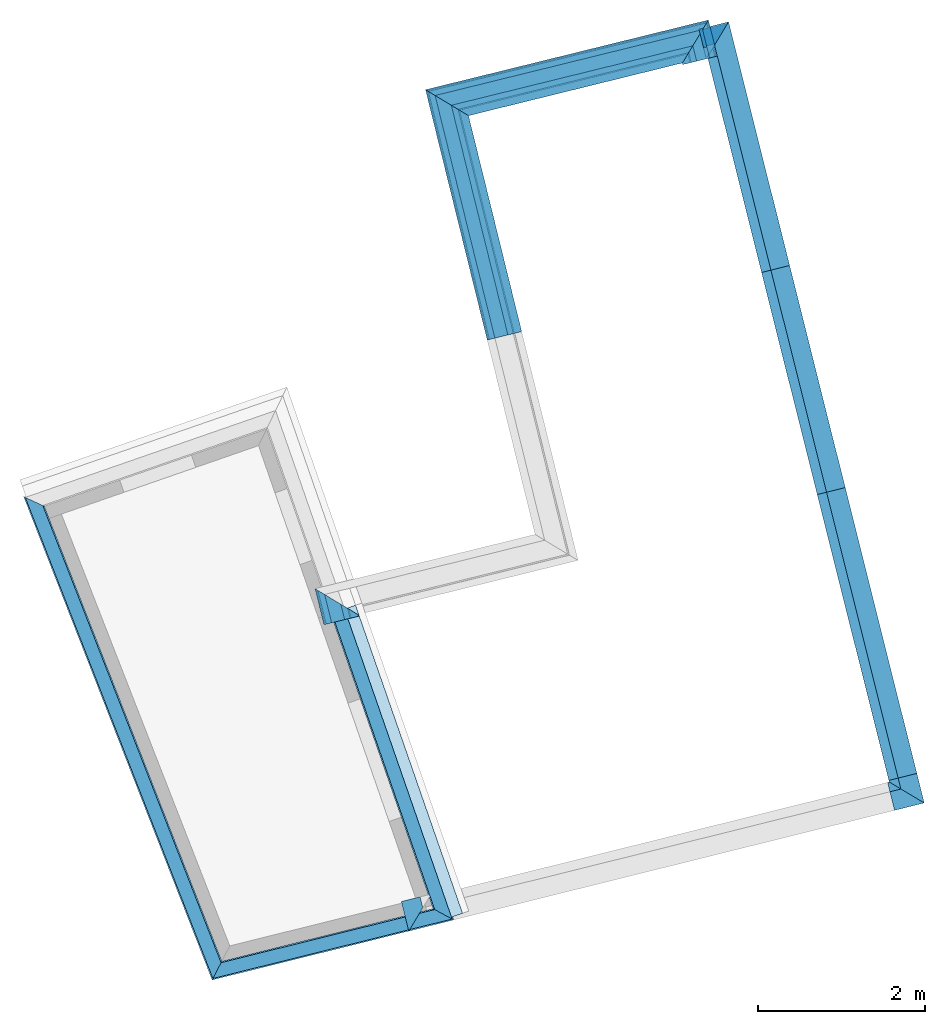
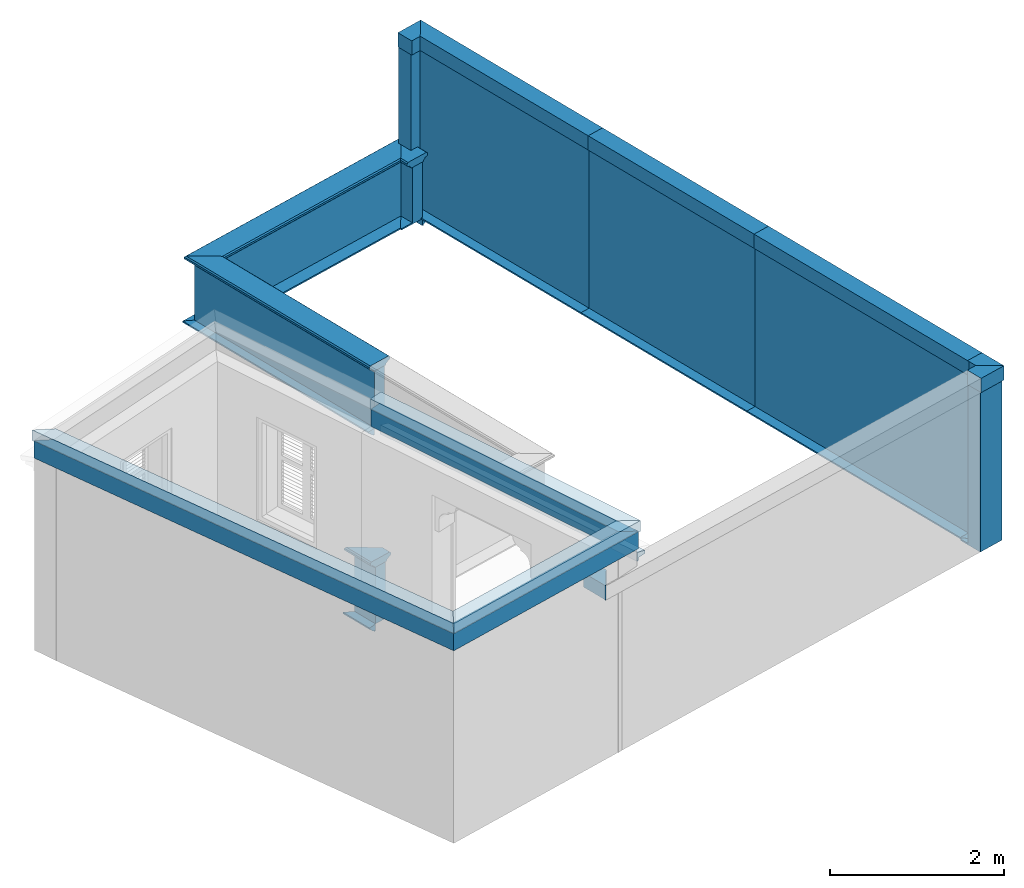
# One storey, part 4 of 5: 25 walls, 7 roofs.
"""IFC4 building model written with IfcOpenShell, lengths in metres."""

from ifc_helpers import new_model, si_unit, frame, origin_with_axes, place, context, subcontext, project, spatial, polyline, outline, extrude, clip, halfspace, material_profile, profile_set, profile_usage, type_object, element, save


model = new_model("IFC4")

# Units and contexts
model_context = context("Model", 3, world=origin_with_axes())
body_context = subcontext(model_context, "Body", "Model", "MODEL_VIEW")
ifc_project = project(units=[si_unit("PLANEANGLEUNIT", "RADIAN"), si_unit("MASSUNIT", "GRAM", prefix="KILO"), si_unit("FORCEUNIT", "NEWTON", prefix="KILO"), si_unit("LENGTHUNIT", "METRE"), si_unit("AREAUNIT", "SQUARE_METRE"), si_unit("VOLUMEUNIT", "CUBIC_METRE")], contexts=[model_context, model_context])

# Site, building, storey
site_placement = place(None, origin_with_axes())
site = spatial("IfcSite", under=ifc_project, at=site_placement, Name="Site plot-1", CompositionType="ELEMENT")
building_placement = place(None, origin_with_axes())
building = spatial("IfcBuilding", under=site, at=building_placement, Name="Building plot-1", CompositionType="ELEMENT")
storey_placement = place(None, frame((0.0, 0.0, 5.4), z_axis=(0.0, 0.0, 1.0), x_axis=(1.0, 0.0, 0.0)))
storey = spatial("IfcBuildingStorey", under=building, at=storey_placement, Name="plot-1 2", CompositionType="ELEMENT", Elevation=5.4)

# Walls
ifc_material_profile_1 = material_profile(None, outline(polyline([(0.25, 0.0), (0.25, 2.245), (0.05, 2.245), (0.05, 0.02), (-0.08, 0.02), (-0.08, 0.0), (0.25, 0.0)])))
ifc_profile_set_1 = profile_set([ifc_material_profile_1])
ifc_profile_usage_1 = profile_usage(ifc_profile_set_1)
wall_type_1 = type_object("IfcWallType", Name="parapet street_0", PredefinedType="PARAPET", material=ifc_profile_set_1)
wall_1_placement = place(storey_placement, frame((8.04196079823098, 16.0467077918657, 0.0), z_axis=(-0.970033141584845, -0.242972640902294, 0.0), x_axis=(0.242972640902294, -0.970033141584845, 0.0)))
element("IfcWall", 1, at=wall_1_placement, inside=storey, type_object=wall_type_1, material=ifc_profile_usage_1, Name="parapet street_0", context=body_context, shape_type="Clipping", body=[
    clip(clip(extrude(outline(polyline([(0.25, 0.0), (0.25, 2.245), (0.05, 2.245), (0.05, 0.02), (-0.08, 0.02), (-0.08, 0.0), (0.25, 0.0)])), origin_with_axes(), (0.0, 0.0, 1.0), 2.1), halfspace(frame((0.0, 0.0, 1.1), z_axis=(-6.12323399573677e-17, 0.0, -1.0), x_axis=(0.0, 1.0, 0.0)), True)), halfspace(frame((0.0, 0.0, 1.0), z_axis=(-0.707106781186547, 0.0, -0.707106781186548), x_axis=(0.0, 1.0, 0.0)), False)),
])
ifc_profile_usage_2 = profile_usage(ifc_profile_set_1)
wall_2_placement = place(storey_placement, frame((5.9479775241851, 20.2909435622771, 0.0), z_axis=(0.242972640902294, -0.970033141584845, 0.0), x_axis=(0.970033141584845, 0.242972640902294, 0.0)))
element("IfcWall", 2, at=wall_2_placement, inside=storey, type_object=wall_type_1, material=ifc_profile_usage_2, Name="parapet street_0", context=body_context, shape_type="Clipping", body=[
    clip(clip(extrude(outline(polyline([(0.25, 0.0), (0.25, 2.245), (0.05, 2.245), (0.05, 0.02), (-0.08, 0.02), (-0.08, 0.0), (0.25, 0.0)])), origin_with_axes(), (0.0, 0.0, 1.0), 5.62583000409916), halfspace(frame((0.0, 0.0, 4.62583000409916), z_axis=(0.707106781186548, 0.0, -0.707106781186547), x_axis=(0.0, 1.0, 0.0)), True)), halfspace(frame((0.0, 0.0, 1.0), z_axis=(-6.12323399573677e-17, 0.0, -1.0), x_axis=(0.0, 1.0, 0.0)), False)),
])
ifc_profile_usage_3 = profile_usage(ifc_profile_set_1)
wall_3_placement = place(storey_placement, frame((5.28201012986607, 22.9497221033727, 0.0), z_axis=(0.242972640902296, -0.970033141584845, 0.0), x_axis=(0.970033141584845, 0.242972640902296, 0.0)))
element("IfcWall", 3, at=wall_3_placement, inside=storey, type_object=wall_type_1, material=ifc_profile_usage_3, Name="parapet street_0", context=body_context, shape_type="Clipping", body=[
    clip(clip(extrude(outline(polyline([(0.25, 0.0), (0.25, 2.245), (0.05, 2.245), (0.05, 0.02), (-0.08, 0.02), (-0.08, 0.0), (0.25, 0.0)])), origin_with_axes(), (0.0, 0.0, 1.0), 4.74091515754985), halfspace(frame((0.0, 0.0, 3.74091515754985), z_axis=(1.93716910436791e-15, 0.0, -1.0), x_axis=(0.0, 1.0, 0.0)), True)), halfspace(frame((0.0, 0.0, 1.0), z_axis=(1.93716910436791e-15, 0.0, -1.0), x_axis=(0.0, 1.0, 0.0)), False)),
])
ifc_profile_usage_4 = profile_usage(ifc_profile_set_1)
wall_4_placement = place(storey_placement, frame((4.61604273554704, 25.6085006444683, 0.0), z_axis=(0.2429726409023, -0.970033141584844, 0.0), x_axis=(0.970033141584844, 0.2429726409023, 0.0)))
element("IfcWall", 4, at=wall_4_placement, inside=storey, type_object=wall_type_1, material=ifc_profile_usage_4, Name="parapet street_0", context=body_context, shape_type="Clipping", body=[
    clip(clip(extrude(outline(polyline([(0.25, 0.0), (0.25, 2.245), (0.05, 2.245), (0.05, 0.02), (-0.08, 0.02), (-0.08, 0.0), (0.25, 0.0)])), origin_with_axes(), (0.0, 0.0, 1.0), 4.74091515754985), halfspace(frame((0.0, 0.0, 3.74091515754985), z_axis=(5.26783817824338e-15, 0.0, -1.0), x_axis=(0.0, 1.0, 0.0)), True)), halfspace(frame((0.0, 0.0, 1.0), z_axis=(-0.707106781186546, 0.0, -0.707106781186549), x_axis=(0.0, 1.0, 0.0)), False)),
])
ifc_profile_usage_5 = profile_usage(ifc_profile_set_1)
wall_5_placement = place(storey_placement, frame((3.79197892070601, 24.371197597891, 0.0), z_axis=(0.970033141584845, 0.242972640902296, 0.0), x_axis=(-0.242972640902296, 0.970033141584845, 0.0)))
element("IfcWall", 5, at=wall_5_placement, inside=storey, type_object=wall_type_1, material=ifc_profile_usage_5, Name="parapet street_0", context=body_context, shape_type="Clipping", body=[
    clip(clip(extrude(outline(polyline([(0.25, 0.0), (0.25, 2.245), (0.05, 2.245), (0.05, 0.02), (-0.08, 0.02), (-0.08, 0.0), (0.25, 0.0)])), origin_with_axes(), (0.0, 0.0, 1.0), 2.1), halfspace(frame((0.0, 0.0, 1.1), z_axis=(0.707106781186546, 0.0, -0.707106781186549), x_axis=(0.0, 1.0, 0.0)), True)), halfspace(frame((0.0, 0.0, 1.0), z_axis=(3.82856869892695e-16, 0.0, -1.0), x_axis=(0.0, 1.0, 0.0)), False)),
])
ifc_material_profile_2 = material_profile(None, outline(polyline([(0.265, 2.245), (0.265, 2.445), (0.035, 2.445), (0.035, 2.245), (0.265, 2.245)])))
ifc_profile_set_2 = profile_set([ifc_material_profile_2])
ifc_profile_usage_6 = profile_usage(ifc_profile_set_2)
wall_type_2 = type_object("IfcWallType", Name="parapet street_1", PredefinedType="PARAPET", material=ifc_profile_set_2)
wall_6_placement = place(storey_placement, frame((8.04196079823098, 16.0467077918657, 0.0), z_axis=(-0.970033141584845, -0.242972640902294, 0.0), x_axis=(0.242972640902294, -0.970033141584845, 0.0)))
element("IfcWall", 6, at=wall_6_placement, inside=storey, type_object=wall_type_2, material=ifc_profile_usage_6, Name="parapet street_1", context=body_context, shape_type="Clipping", body=[
    clip(clip(extrude(outline(polyline([(0.265, 2.245), (0.265, 2.445), (0.035, 2.445), (0.035, 2.245), (0.265, 2.245)])), origin_with_axes(), (0.0, 0.0, 1.0), 2.1), halfspace(frame((0.0, 0.0, 1.1), z_axis=(-6.12323399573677e-17, 0.0, -1.0), x_axis=(0.0, 1.0, 0.0)), True)), halfspace(frame((0.0, 0.0, 1.0), z_axis=(-0.707106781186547, 0.0, -0.707106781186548), x_axis=(0.0, 1.0, 0.0)), False)),
])
ifc_profile_usage_7 = profile_usage(ifc_profile_set_2)
wall_7_placement = place(storey_placement, frame((5.9479775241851, 20.2909435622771, 0.0), z_axis=(0.242972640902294, -0.970033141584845, 0.0), x_axis=(0.970033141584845, 0.242972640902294, 0.0)))
element("IfcWall", 7, at=wall_7_placement, inside=storey, type_object=wall_type_2, material=ifc_profile_usage_7, Name="parapet street_1", context=body_context, shape_type="Clipping", body=[
    clip(clip(extrude(outline(polyline([(0.265, 2.245), (0.265, 2.445), (0.035, 2.445), (0.035, 2.245), (0.265, 2.245)])), origin_with_axes(), (0.0, 0.0, 1.0), 5.62583000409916), halfspace(frame((0.0, 0.0, 4.62583000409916), z_axis=(0.707106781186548, 0.0, -0.707106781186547), x_axis=(0.0, 1.0, 0.0)), True)), halfspace(frame((0.0, 0.0, 1.0), z_axis=(-6.12323399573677e-17, 0.0, -1.0), x_axis=(0.0, 1.0, 0.0)), False)),
])
ifc_profile_usage_8 = profile_usage(ifc_profile_set_2)
wall_8_placement = place(storey_placement, frame((5.28201012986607, 22.9497221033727, 0.0), z_axis=(0.242972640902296, -0.970033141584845, 0.0), x_axis=(0.970033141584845, 0.242972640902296, 0.0)))
element("IfcWall", 8, at=wall_8_placement, inside=storey, type_object=wall_type_2, material=ifc_profile_usage_8, Name="parapet street_1", context=body_context, shape_type="Clipping", body=[
    clip(clip(extrude(outline(polyline([(0.265, 2.245), (0.265, 2.445), (0.035, 2.445), (0.035, 2.245), (0.265, 2.245)])), origin_with_axes(), (0.0, 0.0, 1.0), 4.74091515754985), halfspace(frame((0.0, 0.0, 3.74091515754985), z_axis=(1.93716910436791e-15, 0.0, -1.0), x_axis=(0.0, 1.0, 0.0)), True)), halfspace(frame((0.0, 0.0, 1.0), z_axis=(1.93716910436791e-15, 0.0, -1.0), x_axis=(0.0, 1.0, 0.0)), False)),
])
ifc_profile_usage_9 = profile_usage(ifc_profile_set_2)
wall_9_placement = place(storey_placement, frame((4.61604273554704, 25.6085006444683, 0.0), z_axis=(0.2429726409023, -0.970033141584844, 0.0), x_axis=(0.970033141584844, 0.2429726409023, 0.0)))
element("IfcWall", 9, at=wall_9_placement, inside=storey, type_object=wall_type_2, material=ifc_profile_usage_9, Name="parapet street_1", context=body_context, shape_type="Clipping", body=[
    clip(clip(extrude(outline(polyline([(0.265, 2.245), (0.265, 2.445), (0.035, 2.445), (0.035, 2.245), (0.265, 2.245)])), origin_with_axes(), (0.0, 0.0, 1.0), 4.74091515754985), halfspace(frame((0.0, 0.0, 3.74091515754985), z_axis=(5.26783817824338e-15, 0.0, -1.0), x_axis=(0.0, 1.0, 0.0)), True)), halfspace(frame((0.0, 0.0, 1.0), z_axis=(-0.707106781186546, 0.0, -0.707106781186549), x_axis=(0.0, 1.0, 0.0)), False)),
])
ifc_profile_usage_10 = profile_usage(ifc_profile_set_2)
wall_10_placement = place(storey_placement, frame((3.79197892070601, 24.371197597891, 0.0), z_axis=(0.970033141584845, 0.242972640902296, 0.0), x_axis=(-0.242972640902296, 0.970033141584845, 0.0)))
element("IfcWall", 10, at=wall_10_placement, inside=storey, type_object=wall_type_2, material=ifc_profile_usage_10, Name="parapet street_1", context=body_context, shape_type="Clipping", body=[
    clip(clip(extrude(outline(polyline([(0.265, 2.245), (0.265, 2.445), (0.035, 2.445), (0.035, 2.245), (0.265, 2.245)])), origin_with_axes(), (0.0, 0.0, 1.0), 2.1), halfspace(frame((0.0, 0.0, 1.1), z_axis=(0.707106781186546, 0.0, -0.707106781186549), x_axis=(0.0, 1.0, 0.0)), True)), halfspace(frame((0.0, 0.0, 1.0), z_axis=(3.82856869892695e-16, 0.0, -1.0), x_axis=(0.0, 1.0, 0.0)), False)),
])
ifc_material_profile_3 = material_profile(None, outline(polyline([(0.25, 0.0), (0.25, 2.245), (0.05, 2.245), (0.05, 0.02), (-0.08, 0.02), (-0.08, 0.0), (0.25, 0.0)])))
ifc_profile_set_3 = profile_set([ifc_material_profile_3])
ifc_profile_usage_11 = profile_usage(ifc_profile_set_3)
wall_type_3 = type_object("IfcWallType", Name="parapet party_0", PredefinedType="PARAPET", material=ifc_profile_set_3)
wall_11_placement = place(storey_placement, frame((6.80659250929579, 16.871254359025, 0.0), z_axis=(0.241213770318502, -0.97047200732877, 0.0), x_axis=(0.97047200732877, 0.241213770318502, 0.0)))
element("IfcWall", 11, at=wall_11_placement, inside=storey, type_object=wall_type_3, material=ifc_profile_usage_11, Name="parapet party_0", context=body_context, shape_type="Clipping", body=[
    clip(clip(extrude(outline(polyline([(0.25, 0.0), (0.25, 2.245), (0.05, 2.245), (0.05, 0.02), (-0.08, 0.02), (-0.08, 0.0), (0.25, 0.0)])), origin_with_axes(), (0.0, 0.0, 1.0), 2.1), halfspace(frame((0.0, 0.0, 1.1), z_axis=(0.707106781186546, 0.0, -0.707106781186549), x_axis=(0.0, 1.0, 0.0)), True)), halfspace(frame((0.0, 0.0, 1.0), z_axis=(1.04899068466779e-15, 0.0, -1.0), x_axis=(0.0, 1.0, 0.0)), False)),
])
ifc_material_profile_4 = material_profile(None, outline(polyline([(0.265, 2.245), (0.265, 2.445), (0.035, 2.445), (0.035, 2.245), (0.265, 2.245)])))
ifc_profile_set_4 = profile_set([ifc_material_profile_4])
ifc_profile_usage_12 = profile_usage(ifc_profile_set_4)
wall_type_4 = type_object("IfcWallType", Name="parapet party_1", PredefinedType="PARAPET", material=ifc_profile_set_4)
wall_12_placement = place(storey_placement, frame((1.65882752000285, 13.427866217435, 0.0), z_axis=(-0.241213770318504, 0.97047200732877, 0.0), x_axis=(-0.97047200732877, -0.241213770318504, 0.0)))
element("IfcWall", 12, at=wall_12_placement, inside=storey, type_object=wall_type_4, material=ifc_profile_usage_12, Name="parapet party_1", context=body_context, shape_type="Clipping", body=[
    clip(clip(extrude(outline(polyline([(0.265, 2.245), (0.265, 2.445), (0.035, 2.445), (0.035, 2.245), (0.265, 2.245)])), origin_with_axes(), (0.0, 0.0, 1.0), 2.1), halfspace(frame((0.0, 0.0, 1.1), z_axis=(-7.27366154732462e-16, 0.0, -1.0), x_axis=(0.0, 1.0, 0.0)), True)), halfspace(frame((0.0, 0.0, 1.0), z_axis=(-0.707106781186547, 0.0, -0.707106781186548), x_axis=(0.0, 1.0, 0.0)), False)),
])
ifc_profile_usage_13 = profile_usage(ifc_profile_set_4)
wall_13_placement = place(storey_placement, frame((6.80659250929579, 16.871254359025, 0.0), z_axis=(0.241213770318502, -0.97047200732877, 0.0), x_axis=(0.97047200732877, 0.241213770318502, 0.0)))
element("IfcWall", 13, at=wall_13_placement, inside=storey, type_object=wall_type_4, material=ifc_profile_usage_13, Name="parapet party_1", context=body_context, shape_type="Clipping", body=[
    clip(clip(extrude(outline(polyline([(0.265, 2.245), (0.265, 2.445), (0.035, 2.445), (0.035, 2.245), (0.265, 2.245)])), origin_with_axes(), (0.0, 0.0, 1.0), 2.1), halfspace(frame((0.0, 0.0, 1.1), z_axis=(0.707106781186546, 0.0, -0.707106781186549), x_axis=(0.0, 1.0, 0.0)), True)), halfspace(frame((0.0, 0.0, 1.0), z_axis=(1.04899068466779e-15, 0.0, -1.0), x_axis=(0.0, 1.0, 0.0)), False)),
])
ifc_material_profile_5 = material_profile(None, outline(polyline([(0.25, 0.0), (0.25, 0.795), (0.09, 0.795), (0.09, 0.02), (-0.08, 0.02), (-0.08, 0.0), (0.25, 0.0)])))
ifc_profile_set_5 = profile_set([ifc_material_profile_5])
ifc_profile_usage_14 = profile_usage(ifc_profile_set_5)
wall_type_5 = type_object("IfcWallType", Name="parapet internal_0", PredefinedType="PARAPET", material=ifc_profile_set_5)
wall_14_placement = place(storey_placement, frame((4.31878278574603, 25.5352666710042, 0.0), z_axis=(0.239234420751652, -0.970961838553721, 0.0), x_axis=(0.970961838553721, 0.239234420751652, 0.0)))
element("IfcWall", 14, at=wall_14_placement, inside=storey, type_object=wall_type_5, material=ifc_profile_usage_14, Name="parapet internal_0", context=body_context, shape_type="Clipping", body=[
    clip(clip(extrude(outline(polyline([(0.25, 0.0), (0.25, 0.795), (0.09, 0.795), (0.09, 0.02), (-0.08, 0.02), (-0.08, 0.0), (0.25, 0.0)])), origin_with_axes(), (0.0, 0.0, 1.0), 2.1), halfspace(frame((0.0, 0.0, 1.1), z_axis=(-1.39349996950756e-15, 0.0, -1.0), x_axis=(0.0, 1.0, 0.0)), True)), halfspace(frame((0.0, 0.0, 1.0), z_axis=(-0.707106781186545, 0.0, -0.70710678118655), x_axis=(0.0, 1.0, 0.0)), False)),
])
ifc_profile_usage_15 = profile_usage(ifc_profile_set_5)
wall_15_placement = place(storey_placement, frame((0.871363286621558, 23.6559534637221, 0.0), z_axis=(0.970961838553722, 0.239234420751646, 0.0), x_axis=(-0.239234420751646, 0.970961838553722, 0.0)))
element("IfcWall", 15, at=wall_15_placement, inside=storey, type_object=wall_type_5, material=ifc_profile_usage_15, Name="parapet internal_0", context=body_context, shape_type="Clipping", body=[
    clip(clip(extrude(outline(polyline([(0.25, 0.0), (0.25, 0.795), (0.09, 0.795), (0.09, 0.02), (-0.08, 0.02), (-0.08, 0.0), (0.25, 0.0)])), origin_with_axes(), (0.0, 0.0, 1.0), 4.79690918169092), halfspace(frame((0.0, 0.0, 3.79690918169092), z_axis=(0.707106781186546, 0.0, -0.707106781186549), x_axis=(0.0, 1.0, 0.0)), True)), halfspace(frame((0.0, 0.0, 1.0), z_axis=(-0.707106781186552, 0.0, -0.707106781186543), x_axis=(0.0, 1.0, 0.0)), False)),
])
ifc_profile_usage_16 = profile_usage(ifc_profile_set_5)
wall_16_placement = place(storey_placement, frame((2.73727593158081, 20.2629217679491, 0.0), z_axis=(-0.239234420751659, 0.970961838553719, 0.0), x_axis=(-0.970961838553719, -0.239234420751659, 0.0)))
element("IfcWall", 16, at=wall_16_placement, inside=storey, type_object=wall_type_5, material=ifc_profile_usage_16, Name="parapet internal_0", context=body_context, shape_type="Clipping", body=[
    clip(clip(extrude(outline(polyline([(0.25, 0.0), (0.25, 0.795), (0.09, 0.795), (0.09, 0.02), (-0.08, 0.02), (-0.08, 0.0), (0.25, 0.0)])), origin_with_axes(), (0.0, 0.0, 1.0), 4.74089482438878), halfspace(frame((0.0, 0.0, 3.74089482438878), z_axis=(0.707106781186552, 0.0, -0.707106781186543), x_axis=(0.0, 1.0, 0.0)), True)), halfspace(frame((0.0, 0.0, 1.0), z_axis=(-2.05963378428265e-15, 0.0, -1.0), x_axis=(0.0, 1.0, 0.0)), False)),
])
ifc_profile_usage_17 = profile_usage(ifc_profile_set_5)
wall_17_placement = place(storey_placement, frame((0.783150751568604, 16.8555902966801, 0.0), z_axis=(-0.23923442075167, 0.970961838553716, 0.0), x_axis=(-0.970961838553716, -0.23923442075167, 0.0)))
element("IfcWall", 17, at=wall_17_placement, inside=storey, type_object=wall_type_5, material=ifc_profile_usage_17, Name="parapet internal_0", context=body_context, shape_type="Clipping", body=[
    clip(clip(extrude(outline(polyline([(0.25, 0.0), (0.25, 0.795), (0.09, 0.795), (0.09, 0.02), (-0.08, 0.02), (-0.08, 0.0), (0.25, 0.0)])), origin_with_axes(), (0.0, 0.0, 1.0), 2.1), halfspace(frame((0.0, 0.0, 1.1), z_axis=(0.707106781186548, 0.0, -0.707106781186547), x_axis=(0.0, 1.0, 0.0)), True)), halfspace(frame((0.0, 0.0, 1.0), z_axis=(-1.83758917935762e-15, 0.0, -1.0), x_axis=(0.0, 1.0, 0.0)), False)),
])
ifc_material_profile_6 = material_profile(None, outline(polyline([(0.265, 0.795), (0.268, 0.807), (0.274, 0.816), (0.283, 0.822), (0.295, 0.825), (0.295, 0.84), (0.305, 0.84), (0.317, 0.842), (0.326, 0.849), (0.333, 0.858), (0.335, 0.87), (0.333, 0.882), (0.326, 0.891), (0.317, 0.898), (0.305, 0.9), (0.035, 0.9), (0.023, 0.898), (0.014, 0.891), (0.007, 0.882), (0.005, 0.87), (0.007, 0.858), (0.014, 0.849), (0.023, 0.842), (0.035, 0.84), (0.045, 0.84), (0.045, 0.825), (0.057, 0.822), (0.066, 0.816), (0.072, 0.807), (0.075, 0.795), (0.265, 0.795)])))
ifc_profile_set_6 = profile_set([ifc_material_profile_6])
ifc_profile_usage_18 = profile_usage(ifc_profile_set_6)
wall_type_6 = type_object("IfcWallType", Name="parapet internal_1", PredefinedType="PARAPET", material=ifc_profile_set_6)
wall_18_placement = place(storey_placement, frame((4.31878278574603, 25.5352666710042, 0.0), z_axis=(0.239234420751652, -0.970961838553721, 0.0), x_axis=(0.970961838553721, 0.239234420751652, 0.0)))
element("IfcWall", 18, at=wall_18_placement, inside=storey, type_object=wall_type_6, material=ifc_profile_usage_18, Name="parapet internal_1", context=body_context, shape_type="Clipping", body=[
    clip(clip(extrude(outline(polyline([(0.265, 0.795), (0.268, 0.807), (0.274, 0.816), (0.283, 0.822), (0.295, 0.825), (0.295, 0.84), (0.305, 0.84), (0.317, 0.842), (0.326, 0.849), (0.333, 0.858), (0.335, 0.87), (0.333, 0.882), (0.326, 0.891), (0.317, 0.898), (0.305, 0.9), (0.035, 0.9), (0.023, 0.898), (0.014, 0.891), (0.007, 0.882), (0.005, 0.87), (0.007, 0.858), (0.014, 0.849), (0.023, 0.842), (0.035, 0.84), (0.045, 0.84), (0.045, 0.825), (0.057, 0.822), (0.066, 0.816), (0.072, 0.807), (0.075, 0.795), (0.265, 0.795)])), origin_with_axes(), (0.0, 0.0, 1.0), 2.1), halfspace(frame((0.0, 0.0, 1.1), z_axis=(-1.39349996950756e-15, 0.0, -1.0), x_axis=(0.0, 1.0, 0.0)), True)), halfspace(frame((0.0, 0.0, 1.0), z_axis=(-0.707106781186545, 0.0, -0.70710678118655), x_axis=(0.0, 1.0, 0.0)), False)),
])
ifc_profile_usage_19 = profile_usage(ifc_profile_set_6)
wall_19_placement = place(storey_placement, frame((0.871363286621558, 23.6559534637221, 0.0), z_axis=(0.970961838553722, 0.239234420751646, 0.0), x_axis=(-0.239234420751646, 0.970961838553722, 0.0)))
element("IfcWall", 19, at=wall_19_placement, inside=storey, type_object=wall_type_6, material=ifc_profile_usage_19, Name="parapet internal_1", context=body_context, shape_type="Clipping", body=[
    clip(clip(extrude(outline(polyline([(0.265, 0.795), (0.268, 0.807), (0.274, 0.816), (0.283, 0.822), (0.295, 0.825), (0.295, 0.84), (0.305, 0.84), (0.317, 0.842), (0.326, 0.849), (0.333, 0.858), (0.335, 0.87), (0.333, 0.882), (0.326, 0.891), (0.317, 0.898), (0.305, 0.9), (0.035, 0.9), (0.023, 0.898), (0.014, 0.891), (0.007, 0.882), (0.005, 0.87), (0.007, 0.858), (0.014, 0.849), (0.023, 0.842), (0.035, 0.84), (0.045, 0.84), (0.045, 0.825), (0.057, 0.822), (0.066, 0.816), (0.072, 0.807), (0.075, 0.795), (0.265, 0.795)])), origin_with_axes(), (0.0, 0.0, 1.0), 4.79690918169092), halfspace(frame((0.0, 0.0, 3.79690918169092), z_axis=(0.707106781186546, 0.0, -0.707106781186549), x_axis=(0.0, 1.0, 0.0)), True)), halfspace(frame((0.0, 0.0, 1.0), z_axis=(-0.707106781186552, 0.0, -0.707106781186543), x_axis=(0.0, 1.0, 0.0)), False)),
])
ifc_profile_usage_20 = profile_usage(ifc_profile_set_6)
wall_20_placement = place(storey_placement, frame((2.73727593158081, 20.2629217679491, 0.0), z_axis=(-0.239234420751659, 0.970961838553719, 0.0), x_axis=(-0.970961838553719, -0.239234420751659, 0.0)))
element("IfcWall", 20, at=wall_20_placement, inside=storey, type_object=wall_type_6, material=ifc_profile_usage_20, Name="parapet internal_1", context=body_context, shape_type="Clipping", body=[
    clip(clip(extrude(outline(polyline([(0.265, 0.795), (0.268, 0.807), (0.274, 0.816), (0.283, 0.822), (0.295, 0.825), (0.295, 0.84), (0.305, 0.84), (0.317, 0.842), (0.326, 0.849), (0.333, 0.858), (0.335, 0.87), (0.333, 0.882), (0.326, 0.891), (0.317, 0.898), (0.305, 0.9), (0.035, 0.9), (0.023, 0.898), (0.014, 0.891), (0.007, 0.882), (0.005, 0.87), (0.007, 0.858), (0.014, 0.849), (0.023, 0.842), (0.035, 0.84), (0.045, 0.84), (0.045, 0.825), (0.057, 0.822), (0.066, 0.816), (0.072, 0.807), (0.075, 0.795), (0.265, 0.795)])), origin_with_axes(), (0.0, 0.0, 1.0), 4.74089482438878), halfspace(frame((0.0, 0.0, 3.74089482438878), z_axis=(0.707106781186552, 0.0, -0.707106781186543), x_axis=(0.0, 1.0, 0.0)), True)), halfspace(frame((0.0, 0.0, 1.0), z_axis=(-2.05963378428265e-15, 0.0, -1.0), x_axis=(0.0, 1.0, 0.0)), False)),
])
ifc_profile_usage_21 = profile_usage(ifc_profile_set_6)
wall_21_placement = place(storey_placement, frame((0.783150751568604, 16.8555902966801, 0.0), z_axis=(-0.23923442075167, 0.970961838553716, 0.0), x_axis=(-0.970961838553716, -0.23923442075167, 0.0)))
element("IfcWall", 21, at=wall_21_placement, inside=storey, type_object=wall_type_6, material=ifc_profile_usage_21, Name="parapet internal_1", context=body_context, shape_type="Clipping", body=[
    clip(clip(extrude(outline(polyline([(0.265, 0.795), (0.268, 0.807), (0.274, 0.816), (0.283, 0.822), (0.295, 0.825), (0.295, 0.84), (0.305, 0.84), (0.317, 0.842), (0.326, 0.849), (0.333, 0.858), (0.335, 0.87), (0.333, 0.882), (0.326, 0.891), (0.317, 0.898), (0.305, 0.9), (0.035, 0.9), (0.023, 0.898), (0.014, 0.891), (0.007, 0.882), (0.005, 0.87), (0.007, 0.858), (0.014, 0.849), (0.023, 0.842), (0.035, 0.84), (0.045, 0.84), (0.045, 0.825), (0.057, 0.822), (0.066, 0.816), (0.072, 0.807), (0.075, 0.795), (0.265, 0.795)])), origin_with_axes(), (0.0, 0.0, 1.0), 2.1), halfspace(frame((0.0, 0.0, 1.1), z_axis=(0.707106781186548, 0.0, -0.707106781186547), x_axis=(0.0, 1.0, 0.0)), True)), halfspace(frame((0.0, 0.0, 1.0), z_axis=(-1.83758917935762e-15, 0.0, -1.0), x_axis=(0.0, 1.0, 0.0)), False)),
])
ifc_material_profile_7 = material_profile(None, outline(polyline([(0.25, -0.1), (0.265, -0.1), (0.265, -0.085), (0.278, -0.084), (0.289, -0.081), (0.301, -0.074), (0.309, -0.065), (0.315, -0.055), (0.324, -0.044), (0.334, -0.038), (0.345, -0.035), (0.345, -0.015), (0.25, 0.0), (0.25, -0.1)])))
ifc_profile_set_7 = profile_set([ifc_material_profile_7])
ifc_profile_usage_22 = profile_usage(ifc_profile_set_7)
wall_type_7 = type_object("IfcWallType", Name="parapet internal_2", PredefinedType="PARAPET", material=ifc_profile_set_7)
wall_22_placement = place(storey_placement, frame((4.31878278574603, 25.5352666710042, 0.0), z_axis=(0.239234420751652, -0.970961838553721, 0.0), x_axis=(0.970961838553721, 0.239234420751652, 0.0)))
element("IfcWall", 22, at=wall_22_placement, inside=storey, type_object=wall_type_7, material=ifc_profile_usage_22, Name="parapet internal_2", context=body_context, shape_type="Clipping", body=[
    clip(clip(extrude(outline(polyline([(0.25, -0.1), (0.265, -0.1), (0.265, -0.085), (0.278, -0.084), (0.289, -0.081), (0.301, -0.074), (0.309, -0.065), (0.315, -0.055), (0.324, -0.044), (0.334, -0.038), (0.345, -0.035), (0.345, -0.015), (0.25, 0.0), (0.25, -0.1)])), origin_with_axes(), (0.0, 0.0, 1.0), 2.1), halfspace(frame((0.0, 0.0, 1.1), z_axis=(-1.39349996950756e-15, 0.0, -1.0), x_axis=(0.0, 1.0, 0.0)), True)), halfspace(frame((0.0, 0.0, 1.0), z_axis=(-0.707106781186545, 0.0, -0.70710678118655), x_axis=(0.0, 1.0, 0.0)), False)),
])
ifc_profile_usage_23 = profile_usage(ifc_profile_set_7)
wall_23_placement = place(storey_placement, frame((0.871363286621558, 23.6559534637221, 0.0), z_axis=(0.970961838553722, 0.239234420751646, 0.0), x_axis=(-0.239234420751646, 0.970961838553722, 0.0)))
element("IfcWall", 23, at=wall_23_placement, inside=storey, type_object=wall_type_7, material=ifc_profile_usage_23, Name="parapet internal_2", context=body_context, shape_type="Clipping", body=[
    clip(clip(extrude(outline(polyline([(0.25, -0.1), (0.265, -0.1), (0.265, -0.085), (0.278, -0.084), (0.289, -0.081), (0.301, -0.074), (0.309, -0.065), (0.315, -0.055), (0.324, -0.044), (0.334, -0.038), (0.345, -0.035), (0.345, -0.015), (0.25, 0.0), (0.25, -0.1)])), origin_with_axes(), (0.0, 0.0, 1.0), 4.79690918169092), halfspace(frame((0.0, 0.0, 3.79690918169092), z_axis=(0.707106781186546, 0.0, -0.707106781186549), x_axis=(0.0, 1.0, 0.0)), True)), halfspace(frame((0.0, 0.0, 1.0), z_axis=(-0.707106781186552, 0.0, -0.707106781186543), x_axis=(0.0, 1.0, 0.0)), False)),
])
ifc_profile_usage_24 = profile_usage(ifc_profile_set_7)
wall_24_placement = place(storey_placement, frame((2.73727593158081, 20.2629217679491, 0.0), z_axis=(-0.239234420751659, 0.970961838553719, 0.0), x_axis=(-0.970961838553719, -0.239234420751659, 0.0)))
element("IfcWall", 24, at=wall_24_placement, inside=storey, type_object=wall_type_7, material=ifc_profile_usage_24, Name="parapet internal_2", context=body_context, shape_type="Clipping", body=[
    clip(clip(extrude(outline(polyline([(0.25, -0.1), (0.265, -0.1), (0.265, -0.085), (0.278, -0.084), (0.289, -0.081), (0.301, -0.074), (0.309, -0.065), (0.315, -0.055), (0.324, -0.044), (0.334, -0.038), (0.345, -0.035), (0.345, -0.015), (0.25, 0.0), (0.25, -0.1)])), origin_with_axes(), (0.0, 0.0, 1.0), 4.74089482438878), halfspace(frame((0.0, 0.0, 3.74089482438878), z_axis=(0.707106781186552, 0.0, -0.707106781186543), x_axis=(0.0, 1.0, 0.0)), True)), halfspace(frame((0.0, 0.0, 1.0), z_axis=(-2.05963378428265e-15, 0.0, -1.0), x_axis=(0.0, 1.0, 0.0)), False)),
])
ifc_profile_usage_25 = profile_usage(ifc_profile_set_7)
wall_25_placement = place(storey_placement, frame((0.783150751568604, 16.8555902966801, 0.0), z_axis=(-0.23923442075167, 0.970961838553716, 0.0), x_axis=(-0.970961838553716, -0.23923442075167, 0.0)))
element("IfcWall", 25, at=wall_25_placement, inside=storey, type_object=wall_type_7, material=ifc_profile_usage_25, Name="parapet internal_2", context=body_context, shape_type="Clipping", body=[
    clip(clip(extrude(outline(polyline([(0.25, -0.1), (0.265, -0.1), (0.265, -0.085), (0.278, -0.084), (0.289, -0.081), (0.301, -0.074), (0.309, -0.065), (0.315, -0.055), (0.324, -0.044), (0.334, -0.038), (0.345, -0.035), (0.345, -0.015), (0.25, 0.0), (0.25, -0.1)])), origin_with_axes(), (0.0, 0.0, 1.0), 2.1), halfspace(frame((0.0, 0.0, 1.1), z_axis=(0.707106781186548, 0.0, -0.707106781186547), x_axis=(0.0, 1.0, 0.0)), True)), halfspace(frame((0.0, 0.0, 1.0), z_axis=(-1.83758917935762e-15, 0.0, -1.0), x_axis=(0.0, 1.0, 0.0)), False)),
])

# Roofs
ifc_material_profile_8 = material_profile(None, outline(polyline([(0.25, 0.0), (0.25, 0.245), (0.09, 0.245), (0.09, 0.0), (0.25, 0.0)])))
ifc_profile_set_8 = profile_set([ifc_material_profile_8])
ifc_profile_usage_26 = profile_usage(ifc_profile_set_8)
roof_type_1 = type_object("IfcRoofType", Name="roofline_0", PredefinedType="FREEFORM", material=ifc_profile_set_8)
roof_1_placement = place(storey_placement, frame((-0.60362118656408, 12.8739881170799, 2.7), z_axis=(-0.363339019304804, 0.931656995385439, 0.0), x_axis=(-0.931656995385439, -0.363339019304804, 0.0)))
element("IfcRoof", 26, at=roof_1_placement, inside=storey, type_object=roof_type_1, material=ifc_profile_usage_26, Name="roofline_0", context=body_context, shape_type="Clipping", body=[
    clip(clip(extrude(outline(polyline([(0.25, 0.0), (0.25, 0.245), (0.09, 0.245), (0.09, 0.0), (0.25, 0.0)])), origin_with_axes(), (0.0, 0.0, 1.0), 7.70069090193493), halfspace(frame((0.0, 0.0, 6.70069090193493), z_axis=(0.720265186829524, 0.0, -0.693698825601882), x_axis=(0.0, 1.0, 0.0)), True)), halfspace(frame((0.0, 0.0, 1.0), z_axis=(-0.66034769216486, 0.0, -0.750960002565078), x_axis=(0.0, 1.0, 0.0)), False)),
])
ifc_profile_usage_27 = profile_usage(ifc_profile_set_8)
roof_2_placement = place(storey_placement, frame((2.38808575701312, 14.6395519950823, 2.7), z_axis=(-0.970472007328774, -0.241213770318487, 0.0), x_axis=(0.241213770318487, -0.970472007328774, 0.0)))
element("IfcRoof", 27, at=roof_2_placement, inside=storey, type_object=roof_type_1, material=ifc_profile_usage_27, Name="roofline_0", context=body_context, shape_type="Clipping", body=[
    clip(clip(extrude(outline(polyline([(0.25, 0.0), (0.25, 0.245), (0.09, 0.245), (0.09, 0.0), (0.25, 0.0)])), origin_with_axes(), (0.0, 0.0, 1.0), 4.45712801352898), halfspace(frame((0.0, 0.0, 3.45712801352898), z_axis=(0.66034769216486, 0.0, -0.750960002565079), x_axis=(0.0, 1.0, 0.0)), True)), halfspace(frame((0.0, 0.0, 1.0), z_axis=(-0.738422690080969, 0.0, -0.674338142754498), x_axis=(0.0, 1.0, 0.0)), False)),
])
ifc_profile_usage_28 = profile_usage(ifc_profile_set_8)
roof_3_placement = place(storey_placement, frame((-0.109091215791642, 18.7941335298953, 2.7), z_axis=(0.328085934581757, -0.94464788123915, 0.0), x_axis=(0.94464788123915, 0.328085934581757, 0.0)))
element("IfcRoof", 28, at=roof_3_placement, inside=storey, type_object=roof_type_1, material=ifc_profile_usage_28, Name="roofline_0", context=body_context, shape_type="Clipping", body=[
    clip(clip(extrude(outline(polyline([(0.25, 0.0), (0.25, 0.245), (0.09, 0.245), (0.09, 0.0), (0.25, 0.0)])), origin_with_axes(), (0.0, 0.0, 1.0), 5.65336914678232), halfspace(frame((0.0, 0.0, 4.65336914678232), z_axis=(0.738422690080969, 0.0, -0.674338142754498), x_axis=(0.0, 1.0, 0.0)), True)), halfspace(frame((0.0, 0.0, 1.0), z_axis=(-2.83276944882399e-16, 0.0, -1.0), x_axis=(0.0, 1.0, 0.0)), False)),
])
ifc_material_profile_9 = material_profile(None, outline(polyline([(0.265, 0.245), (0.265, 0.395), (0.075, 0.395), (0.075, 0.245), (0.265, 0.245)])))
ifc_profile_set_9 = profile_set([ifc_material_profile_9])
ifc_profile_usage_29 = profile_usage(ifc_profile_set_9)
roof_type_2 = type_object("IfcRoofType", Name="roofline_1", PredefinedType="FREEFORM", material=ifc_profile_set_9)
roof_4_placement = place(storey_placement, frame((-0.60362118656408, 12.8739881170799, 2.7), z_axis=(-0.363339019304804, 0.931656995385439, 0.0), x_axis=(-0.931656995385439, -0.363339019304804, 0.0)))
element("IfcRoof", 29, at=roof_4_placement, inside=storey, type_object=roof_type_2, material=ifc_profile_usage_29, Name="roofline_1", context=body_context, shape_type="Clipping", body=[
    clip(clip(extrude(outline(polyline([(0.265, 0.245), (0.265, 0.395), (0.075, 0.395), (0.075, 0.245), (0.265, 0.245)])), origin_with_axes(), (0.0, 0.0, 1.0), 7.70069090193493), halfspace(frame((0.0, 0.0, 6.70069090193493), z_axis=(0.720265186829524, 0.0, -0.693698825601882), x_axis=(0.0, 1.0, 0.0)), True)), halfspace(frame((0.0, 0.0, 1.0), z_axis=(-0.66034769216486, 0.0, -0.750960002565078), x_axis=(0.0, 1.0, 0.0)), False)),
])
ifc_profile_usage_30 = profile_usage(ifc_profile_set_9)
roof_5_placement = place(storey_placement, frame((2.38808575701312, 14.6395519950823, 2.7), z_axis=(-0.970472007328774, -0.241213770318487, 0.0), x_axis=(0.241213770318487, -0.970472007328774, 0.0)))
element("IfcRoof", 30, at=roof_5_placement, inside=storey, type_object=roof_type_2, material=ifc_profile_usage_30, Name="roofline_1", context=body_context, shape_type="Clipping", body=[
    clip(clip(extrude(outline(polyline([(0.265, 0.245), (0.265, 0.395), (0.075, 0.395), (0.075, 0.245), (0.265, 0.245)])), origin_with_axes(), (0.0, 0.0, 1.0), 4.45712801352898), halfspace(frame((0.0, 0.0, 3.45712801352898), z_axis=(0.66034769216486, 0.0, -0.750960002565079), x_axis=(0.0, 1.0, 0.0)), True)), halfspace(frame((0.0, 0.0, 1.0), z_axis=(-0.738422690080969, 0.0, -0.674338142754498), x_axis=(0.0, 1.0, 0.0)), False)),
])
ifc_profile_usage_31 = profile_usage(ifc_profile_set_9)
roof_6_placement = place(storey_placement, frame((-0.109091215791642, 18.7941335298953, 2.7), z_axis=(0.328085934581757, -0.94464788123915, 0.0), x_axis=(0.94464788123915, 0.328085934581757, 0.0)))
element("IfcRoof", 31, at=roof_6_placement, inside=storey, type_object=roof_type_2, material=ifc_profile_usage_31, Name="roofline_1", context=body_context, shape_type="Clipping", body=[
    clip(clip(extrude(outline(polyline([(0.265, 0.245), (0.265, 0.395), (0.075, 0.395), (0.075, 0.245), (0.265, 0.245)])), origin_with_axes(), (0.0, 0.0, 1.0), 5.65336914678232), halfspace(frame((0.0, 0.0, 4.65336914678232), z_axis=(0.738422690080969, 0.0, -0.674338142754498), x_axis=(0.0, 1.0, 0.0)), True)), halfspace(frame((0.0, 0.0, 1.0), z_axis=(-2.83276944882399e-16, 0.0, -1.0), x_axis=(0.0, 1.0, 0.0)), False)),
])
ifc_material_profile_10 = material_profile(None, outline(polyline([(0.25, -0.19), (0.275, -0.19), (0.275, -0.15), (0.39, -0.15), (0.39, -0.107509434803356), (0.25, -0.0629639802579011), (0.25, -0.19)])))
ifc_profile_set_10 = profile_set([ifc_material_profile_10])
ifc_profile_usage_32 = profile_usage(ifc_profile_set_10)
roof_type_3 = type_object("IfcRoofType", Name="eaves_0", PredefinedType="FREEFORM", material=ifc_profile_set_10)
roof_7_placement = place(storey_placement, frame((-0.109091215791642, 18.7941335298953, 2.7), z_axis=(0.328085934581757, -0.94464788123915, 0.0), x_axis=(0.94464788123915, 0.328085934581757, 0.0)))
element("IfcRoof", 32, at=roof_7_placement, inside=storey, type_object=roof_type_3, material=ifc_profile_usage_32, Name="eaves_0", context=body_context, shape_type="Clipping", body=[
    clip(clip(extrude(outline(polyline([(0.25, -0.19), (0.275, -0.19), (0.275, -0.15), (0.39, -0.15), (0.39, -0.107509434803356), (0.25, -0.0629639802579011), (0.25, -0.19)])), origin_with_axes(), (0.0, 0.0, 1.0), 5.90336914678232), halfspace(frame((0.0, 0.0, 4.90336914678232), z_axis=(-6.12323399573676e-17, 0.0, -1.0), x_axis=(0.0, 1.0, 0.0)), True)), halfspace(frame((0.0, 0.0, 1.0), z_axis=(-2.83276944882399e-16, 0.0, -1.0), x_axis=(0.0, 1.0, 0.0)), False)),
])

save(model, "model.ifc")
